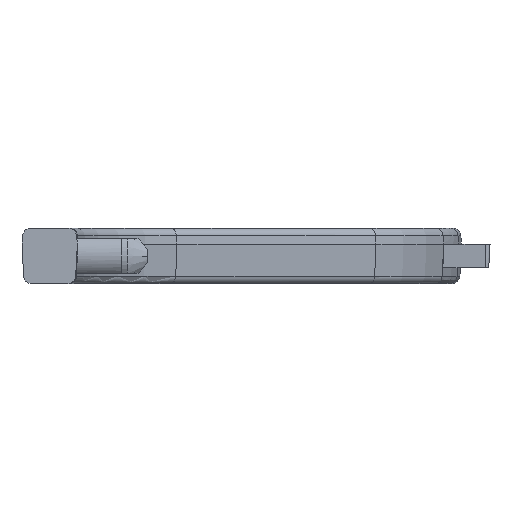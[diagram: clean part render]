
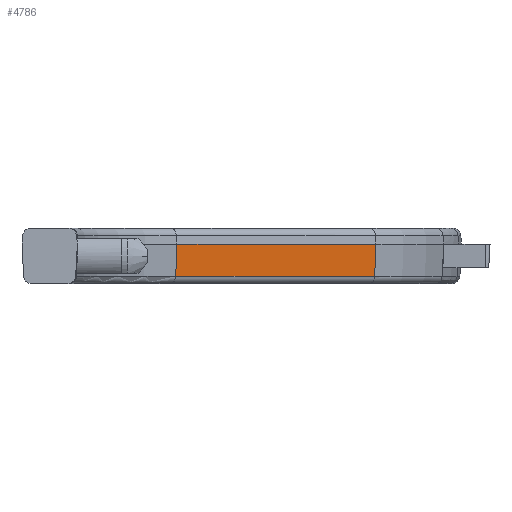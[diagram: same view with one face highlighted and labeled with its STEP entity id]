
A CAD part, left-side view. The second image highlights one B-rep face of the part: STEP entity #4786.
In plain terms, the highlighted planar face has unit normal (-0.706, -0.706, -0.052).
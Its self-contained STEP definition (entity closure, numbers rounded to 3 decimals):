
#302=DIRECTION('',(-0.707,0.707,0.));
#303=VECTOR('',#302,17.797);
#304=CARTESIAN_POINT('',(37.327,-7.582,
-1.));
#305=LINE('',#304,#303);
#502=DIRECTION('',(-0.037,-0.037,0.999));
#503=VECTOR('',#502,2.029);
#504=CARTESIAN_POINT('',(37.402,-7.507,-3.026));
#505=LINE('',#504,#503);
#509=DIRECTION('',(0.037,0.037,-0.999));
#510=VECTOR('',#509,2.029);
#511=CARTESIAN_POINT('',(24.742,5.003,-1.));
#512=LINE('',#511,#510);
#597=DIRECTION('',(0.707,-0.707,0.));
#598=VECTOR('',#597,17.797);
#599=CARTESIAN_POINT('',(24.818,5.078,-3.026));
#600=LINE('',#599,#598);
#3812=CARTESIAN_POINT('',(24.742,5.003,-1.));
#3814=VERTEX_POINT('',#3812);
#3815=CARTESIAN_POINT('',(37.327,-7.582,
-1.));
#3817=VERTEX_POINT('',#3815);
#3859=CARTESIAN_POINT('',(37.402,-7.507,
-3.026));
#3860=VERTEX_POINT('',#3859);
#3861=CARTESIAN_POINT('',(24.818,5.078,-3.026));
#3862=VERTEX_POINT('',#3861);
#4773=CARTESIAN_POINT('',(24.491,5.254,-1.));
#4774=DIRECTION('',(-0.706,-0.706,-0.052));
#4775=DIRECTION('',(0.707,-0.707,0.));
#4776=AXIS2_PLACEMENT_3D('',#4773,#4774,#4775);
#4777=PLANE('',#4776);
#4779=ORIENTED_EDGE('',*,*,#4778,.F.);
#4780=ORIENTED_EDGE('',*,*,#4541,.F.);
#4781=ORIENTED_EDGE('',*,*,#4764,.F.);
#4783=ORIENTED_EDGE('',*,*,#4782,.F.);
#4784=EDGE_LOOP('',(#4779,#4780,#4781,#4783));
#4785=FACE_OUTER_BOUND('',#4784,.F.);
#4541=EDGE_CURVE('',#3817,#3814,#305,.T.);
#4764=EDGE_CURVE('',#3860,#3817,#505,.T.);
#4778=EDGE_CURVE('',#3814,#3862,#512,.T.);
#4782=EDGE_CURVE('',#3862,#3860,#600,.T.);
#4786=ADVANCED_FACE('',(#4785),#4777,.T.);
